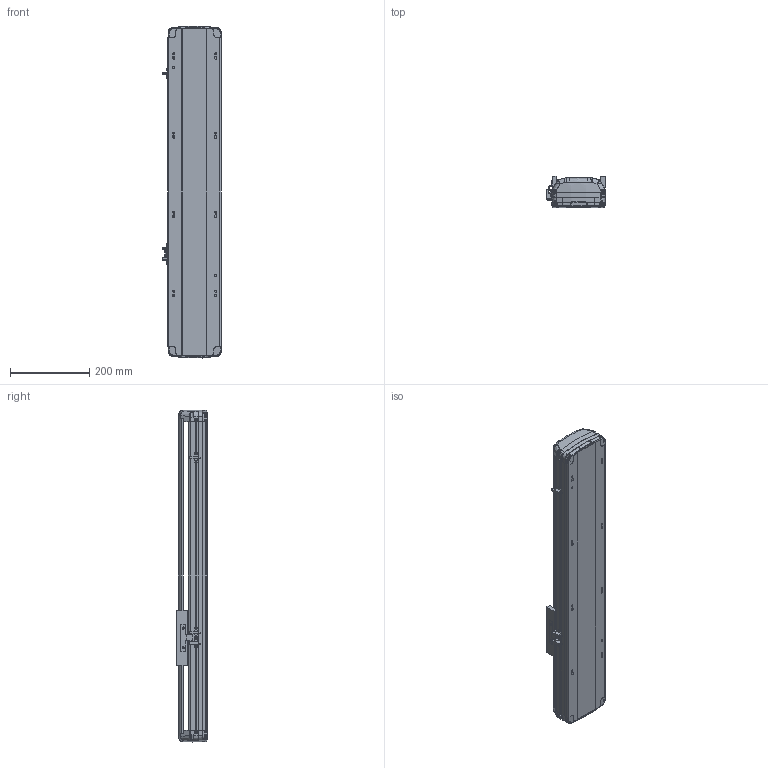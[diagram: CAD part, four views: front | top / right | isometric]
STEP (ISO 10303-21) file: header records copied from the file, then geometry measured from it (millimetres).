
FILE_DESCRIPTION (( 'STEP AP214' ), '1' );
FILE_NAME ('RTH14-XX-450-B-M20-C4.STEP', '2025-10-25T02:20:26', ( 'Microsoft' ), ( 'Microsoft' ), 'SwSTEP 2.0', 'SolidWorks 2018', '' );
FILE_SCHEMA (( 'AUTOMOTIVE_DESIGN' ));
Length unit declared in the file: millimetre
Products named in the file (7): N_RTH13-L-012感应片（外置）^RTH14-XX-XX-B-M20-C4; N_RTH14-R-004-SFSR16賑釱^RTH14-XX-XX-B-M20-C4; N_RTH14-B-011P菁釱^RTH14-XX-XX-B-M20-C4; N_RTH14-GY-001P^RTH14-XX-XX-B-M20-C4; N_RTH14-B-007奻裔^RTH14-XX-XX-B-M20-C4; N_OMRON EE-SX672 传感器^RTH14-XX-XX-B-M20-C4; RTH14-XX-450-B-M20-C4
Assembly tree (9 placements, depth 2):
  RTH14-XX-450-B-M20-C4
    N_RTH14-B-011P菁釱^RTH14-XX-XX-B-M20-C4
    N_RTH14-B-007奻裔^RTH14-XX-XX-B-M20-C4
    N_RTH13-L-012感应片（外置）^RTH14-XX-XX-B-M20-C4
    N_OMRON EE-SX672 传感器^RTH14-XX-XX-B-M20-C4  x3
    N_RTH14-R-004-SFSR16賑釱^RTH14-XX-XX-B-M20-C4
    N_RTH14-GY-001P^RTH14-XX-XX-B-M20-C4  x2
Bounding box: 148.5 x 78.03 x 838.74 mm (x, y, z)
Volume: 3529981.5 mm3; surface area: 820868.6 mm2
Topology: 9 solids, 9 shells, 1900 faces, 5350 edges, 3482 vertices
Faces by surface type: plane 975, bspline 450, cylinder 411, cone 56, torus 8
Entity records: 45974 total; most frequent: CARTESIAN_POINT 20702, ORIENTED_EDGE 5716, DIRECTION 4161, EDGE_CURVE 2858, VERTEX_POINT 1868, VECTOR 1617, LINE 1617, AXIS2_PLACEMENT_3D 1272
